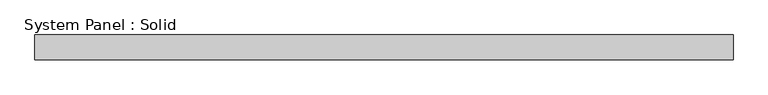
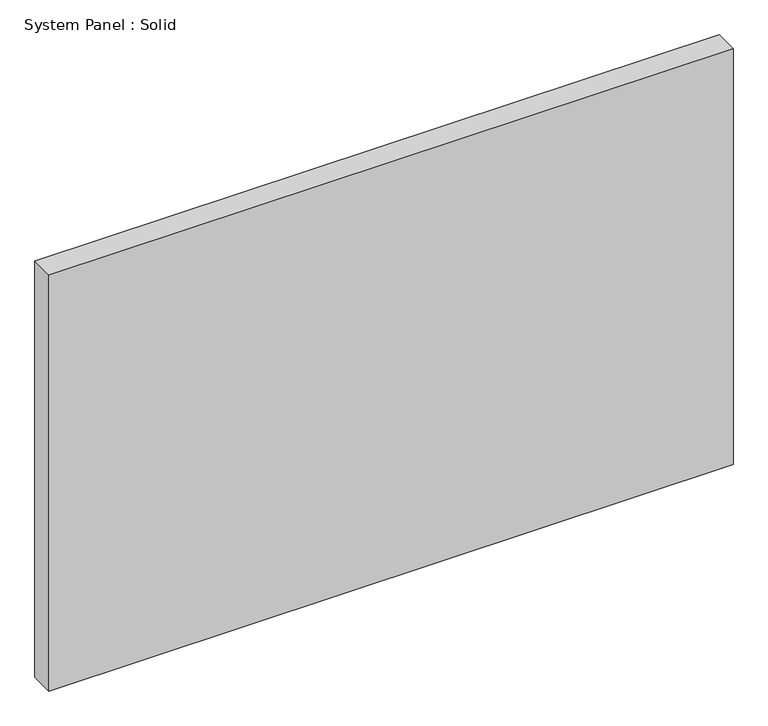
"""IFC4 building model written with IfcOpenShell, lengths in millimetres: plate geometry, System Panel : Solid."""

from ifc_helpers import new_model, si_unit, origin, origin_with_axes, place, context, project, spatial, polyline, outline, extrude, source, transform, mapped, element, save


def system_panel_solid_d58521b3(model_context):
    return source(origin(), model_context, "Body", "SweptSolid", [
        extrude(outline(polyline([(898.525, -19.05), (-898.525, -19.05), (-898.525, 44.45), (898.525, 44.45), (898.525, -19.05)])), origin_with_axes(), (0.0, 0.0, 1.0), 1155.7),
    ])


if __name__ == "__main__":
    model = new_model("IFC4")
    model_context = context("Model", 3, world=origin())
    ifc_project = project(units=[si_unit("LENGTHUNIT", "METRE", prefix="MILLI")], contexts=[model_context])
    site = spatial("IfcSite", under=ifc_project)
    building = spatial("IfcBuilding", under=site)
    placement = place(None, origin())
    system_panel_solid_shape = system_panel_solid_d58521b3(model_context)
    element("IfcPlate", 1, ObjectType="System Panel : Solid", at=placement, inside=building, context=model_context, shape_type="MappedRepresentation", body=[
        mapped(system_panel_solid_shape, transform((0.0, 0.0, 0.0), x_axis=(1.0, 0.0, 0.0), y_axis=(0.0, 1.0, 0.0), z_axis=(0.0, 0.0, 1.0))),
    ])
    save(model, "model.ifc")
